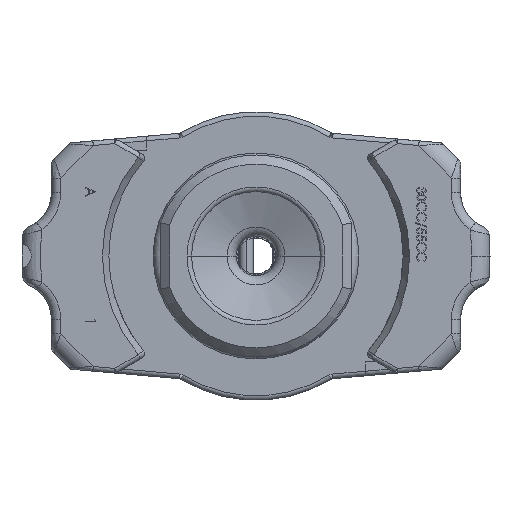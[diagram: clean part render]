
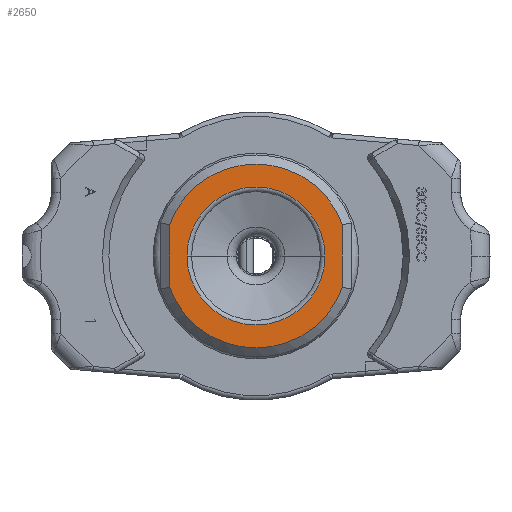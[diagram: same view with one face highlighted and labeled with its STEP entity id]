
A CAD part, front view. The second image highlights one B-rep face of the part: STEP entity #2650.
In plain terms, the highlighted planar face has unit normal (0, -1, 0).
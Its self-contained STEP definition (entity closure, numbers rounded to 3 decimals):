
#1643 = EDGE_CURVE ( 'NONE', #6966, #25582, #16806, .T. ) ;
#1666 = DIRECTION ( 'NONE',  ( 1., 0., 0. ) ) ;
#2017 = VECTOR ( 'NONE', #31031, 1000. ) ;
#2650 = ADVANCED_FACE ( 'NONE', ( #28634, #14072 ), #12168, .T. ) ;
#2991 = VERTEX_POINT ( 'NONE', #21319 ) ;
#3607 = EDGE_LOOP ( 'NONE', ( #10655, #13579 ) ) ;
#3728 = EDGE_CURVE ( 'NONE', #7225, #2991, #9873, .T. ) ;
#4468 = ORIENTED_EDGE ( 'NONE', *, *, #3728, .T. ) ;
#4513 = DIRECTION ( 'NONE',  ( 1., 0., 0. ) ) ;
#5293 = CARTESIAN_POINT ( 'NONE',  ( -16.05, 0., 12.183 ) ) ;
#5451 = CARTESIAN_POINT ( 'NONE',  ( -25.45, 0., 8.6 ) ) ;
#6966 = VERTEX_POINT ( 'NONE', #9736 ) ;
#6984 = CARTESIAN_POINT ( 'NONE',  ( -25.45, 0., 8.6 ) ) ;
#7225 = VERTEX_POINT ( 'NONE', #17708 ) ;
#7526 = DIRECTION ( 'NONE',  ( 0., -1., 0. ) ) ;
#7677 = AXIS2_PLACEMENT_3D ( 'NONE', #14451, #7526, #4513 ) ;
#7774 = EDGE_LOOP ( 'NONE', ( #22625, #4468, #15424, #8924 ) ) ;
#8249 = VERTEX_POINT ( 'NONE', #15794 ) ;
#8924 = ORIENTED_EDGE ( 'NONE', *, *, #10150, .T. ) ;
#9317 = AXIS2_PLACEMENT_3D ( 'NONE', #26971, #12281, #12424 ) ;
#9548 = CIRCLE ( 'NONE', #27018, 10. ) ;
#9736 = CARTESIAN_POINT ( 'NONE',  ( -32.95, 0., 8.6 ) ) ;
#9873 = LINE ( 'NONE', #5293, #2017 ) ;
#10150 = EDGE_CURVE ( 'NONE', #8249, #13539, #15912, .T. ) ;
#10655 = ORIENTED_EDGE ( 'NONE', *, *, #15899, .T. ) ;
#12168 = PLANE ( 'NONE',  #7677 ) ;
#12281 = DIRECTION ( 'NONE',  ( 0., 1., 0. ) ) ;
#12424 = DIRECTION ( 'NONE',  ( 1., 0., 0. ) ) ;
#13116 = CIRCLE ( 'NONE', #30664, 7.5 ) ;
#13539 = VERTEX_POINT ( 'NONE', #24451 ) ;
#13579 = ORIENTED_EDGE ( 'NONE', *, *, #1643, .T. ) ;
#14072 = FACE_BOUND ( 'NONE', #3607, .T. ) ;
#14228 = DIRECTION ( 'NONE',  ( 0., -1., 0. ) ) ;
#14451 = CARTESIAN_POINT ( 'NONE',  ( -25.45, 0., -2.4 ) ) ;
#15362 = DIRECTION ( 'NONE',  ( 0., 1., 0. ) ) ;
#15424 = ORIENTED_EDGE ( 'NONE', *, *, #22018, .T. ) ;
#15794 = CARTESIAN_POINT ( 'NONE',  ( -34.85, 0., 12.012 ) ) ;
#15899 = EDGE_CURVE ( 'NONE', #25582, #6966, #13116, .T. ) ;
#15912 = LINE ( 'NONE', #23438, #28342 ) ;
#16806 = CIRCLE ( 'NONE', #9317, 7.5 ) ;
#17708 = CARTESIAN_POINT ( 'NONE',  ( -16.05, 0., 5.188 ) ) ;
#18055 = DIRECTION ( 'NONE',  ( 1., 0., 0. ) ) ;
#18159 = EDGE_CURVE ( 'NONE', #13539, #7225, #21589, .T. ) ;
#18277 = CARTESIAN_POINT ( 'NONE',  ( -17.95, 0., 8.6 ) ) ;
#18365 = DIRECTION ( 'NONE',  ( 0., -1., 0. ) ) ;
#19092 = AXIS2_PLACEMENT_3D ( 'NONE', #29956, #18365, #18055 ) ;
#21319 = CARTESIAN_POINT ( 'NONE',  ( -16.05, 0., 12.012 ) ) ;
#21589 = CIRCLE ( 'NONE', #19092, 10. ) ;
#22018 = EDGE_CURVE ( 'NONE', #2991, #8249, #9548, .T. ) ;
#22625 = ORIENTED_EDGE ( 'NONE', *, *, #18159, .T. ) ;
#23438 = CARTESIAN_POINT ( 'NONE',  ( -34.85, 0., 5.017 ) ) ;
#24451 = CARTESIAN_POINT ( 'NONE',  ( -34.85, 0., 5.188 ) ) ;
#25582 = VERTEX_POINT ( 'NONE', #18277 ) ;
#26971 = CARTESIAN_POINT ( 'NONE',  ( -25.45, 0., 8.6 ) ) ;
#27018 = AXIS2_PLACEMENT_3D ( 'NONE', #6984, #14228, #1666 ) ;
#28342 = VECTOR ( 'NONE', #30002, 1000. ) ;
#28634 = FACE_OUTER_BOUND ( 'NONE', #7774, .T. ) ;
#29439 = DIRECTION ( 'NONE',  ( 1., 0., 0. ) ) ;
#29956 = CARTESIAN_POINT ( 'NONE',  ( -25.45, 0., 8.6 ) ) ;
#30002 = DIRECTION ( 'NONE',  ( 0., 0., -1. ) ) ;
#30664 = AXIS2_PLACEMENT_3D ( 'NONE', #5451, #15362, #29439 ) ;
#31031 = DIRECTION ( 'NONE',  ( 0., 0., 1. ) ) ;
